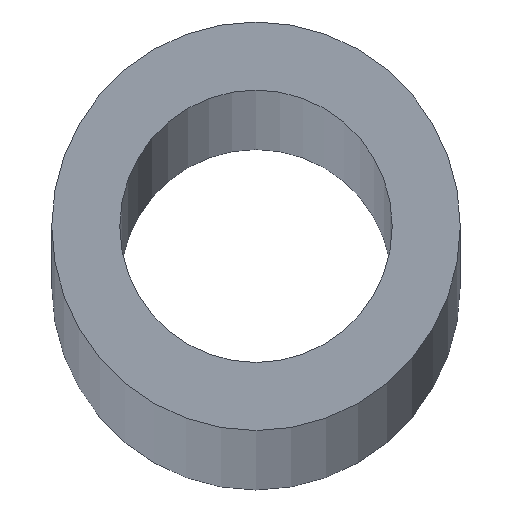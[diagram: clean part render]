
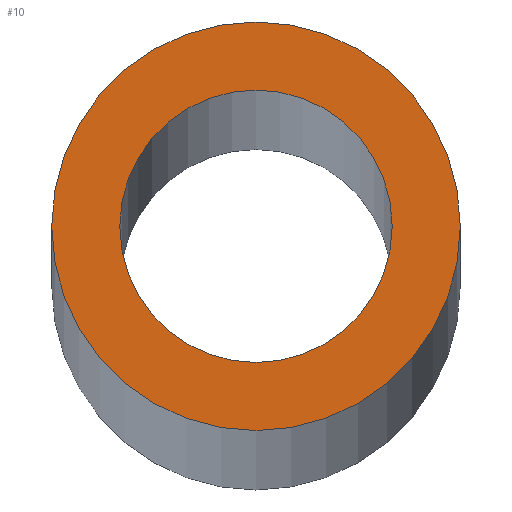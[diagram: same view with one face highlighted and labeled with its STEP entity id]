
A CAD part, top view. The second image highlights one B-rep face of the part: STEP entity #10.
In plain terms, the highlighted planar face has unit normal (0, 0, 1).
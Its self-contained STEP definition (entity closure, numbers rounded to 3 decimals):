
#2 = EDGE_CURVE ( 'NONE', #58, #47, #63, .T. ) ;
#3 = ORIENTED_EDGE ( 'NONE', *, *, #52, .F. ) ;
#4 = EDGE_LOOP ( 'NONE', ( #5, #37 ) ) ;
#5 = ORIENTED_EDGE ( 'NONE', *, *, #17, .T. ) ;
#10 = ADVANCED_FACE ( 'NONE', ( #71, #70 ), #69, .T. ) ;
#11 = EDGE_LOOP ( 'NONE', ( #12, #3 ) ) ;
#12 = ORIENTED_EDGE ( 'NONE', *, *, #2, .F. ) ;
#15 = VERTEX_POINT ( 'NONE', #98 ) ;
#17 = EDGE_CURVE ( 'NONE', #18, #15, #97, .T. ) ;
#18 = VERTEX_POINT ( 'NONE', #83 ) ;
#34 = EDGE_CURVE ( 'NONE', #15, #18, #143, .T. ) ;
#37 = ORIENTED_EDGE ( 'NONE', *, *, #34, .T. ) ;
#47 = VERTEX_POINT ( 'NONE', #158 ) ;
#52 = EDGE_CURVE ( 'NONE', #47, #58, #155, .T. ) ;
#58 = VERTEX_POINT ( 'NONE', #111 ) ;
#59 = DIRECTION ( 'NONE',  ( 1., 0., 0. ) ) ;
#60 = DIRECTION ( 'NONE',  ( 0., 0., 1. ) ) ;
#61 = CARTESIAN_POINT ( 'NONE',  ( 0., 0., 0. ) ) ;
#62 = AXIS2_PLACEMENT_3D ( 'NONE', #61, #60, #59 ) ;
#63 = CIRCLE ( 'NONE', #62, 2. ) ;
#69 = PLANE ( 'NONE',  #93 ) ;
#70 = FACE_OUTER_BOUND ( 'NONE', #4, .T. ) ;
#71 = FACE_BOUND ( 'NONE', #11, .T. ) ;
#83 = CARTESIAN_POINT ( 'NONE',  ( 3., 0., 0. ) ) ;
#84 = DIRECTION ( 'NONE',  ( 1., 0., 0. ) ) ;
#90 = DIRECTION ( 'NONE',  ( 1., 0., 0. ) ) ;
#91 = DIRECTION ( 'NONE',  ( 0., 0., 1. ) ) ;
#92 = CARTESIAN_POINT ( 'NONE',  ( 0., 0., 0. ) ) ;
#93 = AXIS2_PLACEMENT_3D ( 'NONE', #92, #91, #90 ) ;
#94 = DIRECTION ( 'NONE',  ( 0., 0., 1. ) ) ;
#95 = CARTESIAN_POINT ( 'NONE',  ( 0., 0., 0. ) ) ;
#96 = AXIS2_PLACEMENT_3D ( 'NONE', #95, #94, #84 ) ;
#97 = CIRCLE ( 'NONE', #96, 3. ) ;
#98 = CARTESIAN_POINT ( 'NONE',  ( -3., 0., 0. ) ) ;
#111 = CARTESIAN_POINT ( 'NONE',  ( 2., 0., 0. ) ) ;
#118 = DIRECTION ( 'NONE',  ( 1., 0., 0. ) ) ;
#119 = DIRECTION ( 'NONE',  ( 0., 0., 1. ) ) ;
#120 = CARTESIAN_POINT ( 'NONE',  ( 0., 0., 0. ) ) ;
#121 = AXIS2_PLACEMENT_3D ( 'NONE', #120, #119, #118 ) ;
#139 = DIRECTION ( 'NONE',  ( 1., 0., 0. ) ) ;
#140 = DIRECTION ( 'NONE',  ( 0., 0., 1. ) ) ;
#141 = CARTESIAN_POINT ( 'NONE',  ( 0., 0., 0. ) ) ;
#142 = AXIS2_PLACEMENT_3D ( 'NONE', #141, #140, #139 ) ;
#143 = CIRCLE ( 'NONE', #142, 3. ) ;
#155 = CIRCLE ( 'NONE', #121, 2. ) ;
#158 = CARTESIAN_POINT ( 'NONE',  ( -2., 0., 0. ) ) ;
